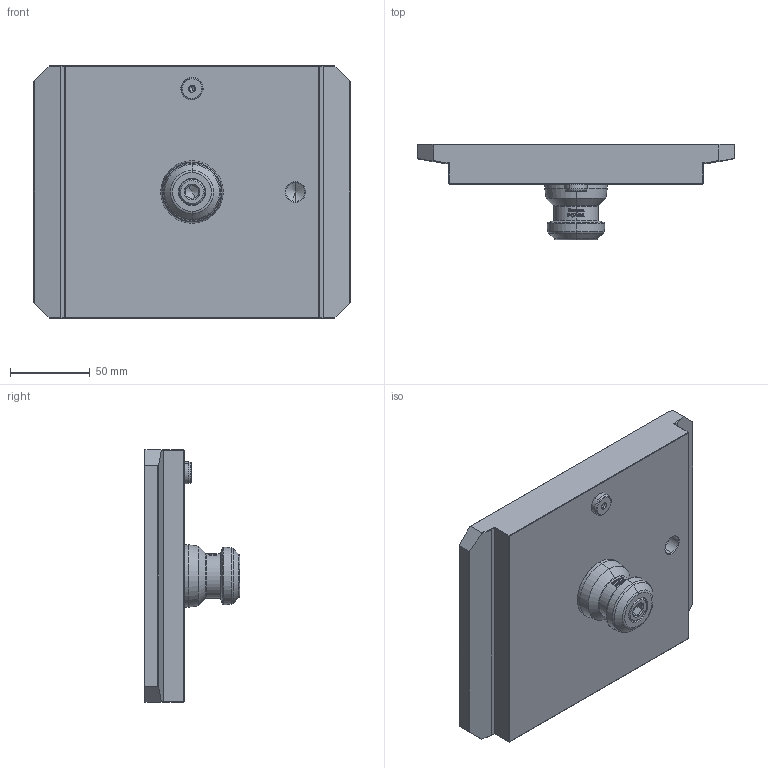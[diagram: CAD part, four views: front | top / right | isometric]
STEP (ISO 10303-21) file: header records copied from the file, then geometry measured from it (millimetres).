
FILE_DESCRIPTION (( 'STEP AP203' ), '1' );
FILE_NAME ('61P864316.STEP', '2024-04-26T07:22:10', ( '' ), ( '' ), 'SwSTEP 2.0', 'SolidWorks 2022', '' );
FILE_SCHEMA (( 'CONFIG_CONTROL_DESIGN' ));
Length unit declared in the file: millimetre
Products named in the file (5): 61P293306; 0030110050; 61P864311; 61P864316; 61P493325
Assembly tree (4 placements, depth 2):
  61P864316
    61P864311
    61P293306
    61P493325
    0030110050
Bounding box: 199 x 60 x 159 mm (x, y, z)
Volume: 729941.5 mm3; surface area: 90862.5 mm2
Topology: 4 solids, 4 shells, 355 faces, 1547 edges, 1238 vertices
Faces by surface type: plane 154, bspline 70, cone 58, cylinder 57, torus 16
Entity records: 19782 total; most frequent: CARTESIAN_POINT 8276, ORIENTED_EDGE 3078, DIRECTION 1576, EDGE_CURVE 1539, VERTEX_POINT 1238, LINE 560, VECTOR 560, AXIS2_PLACEMENT_3D 508
